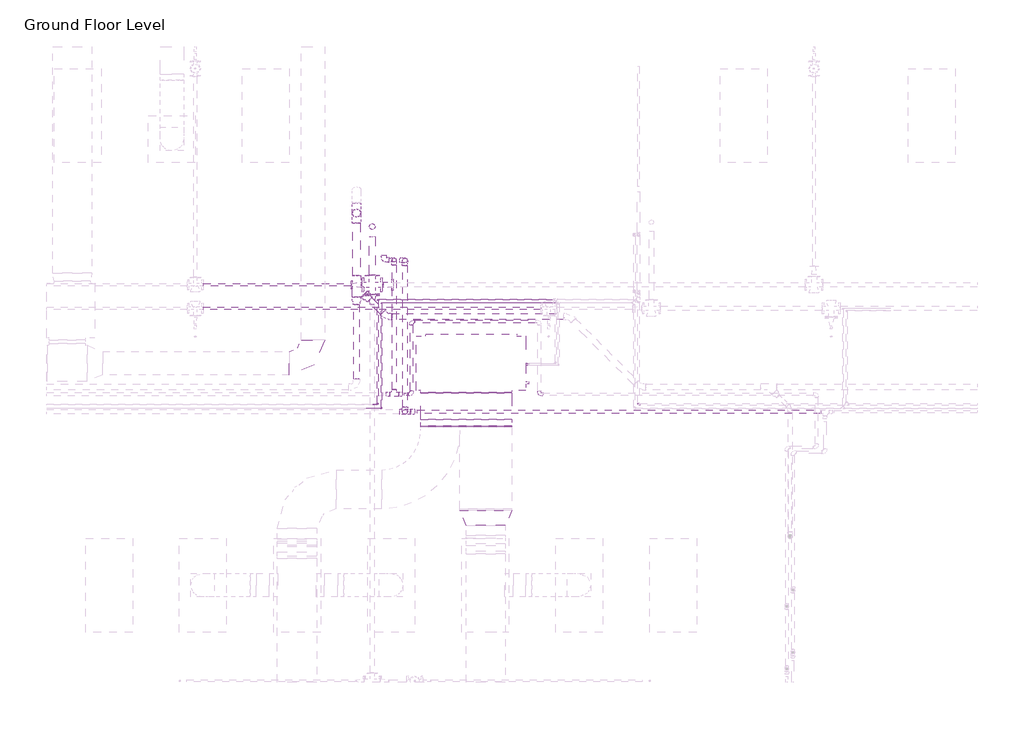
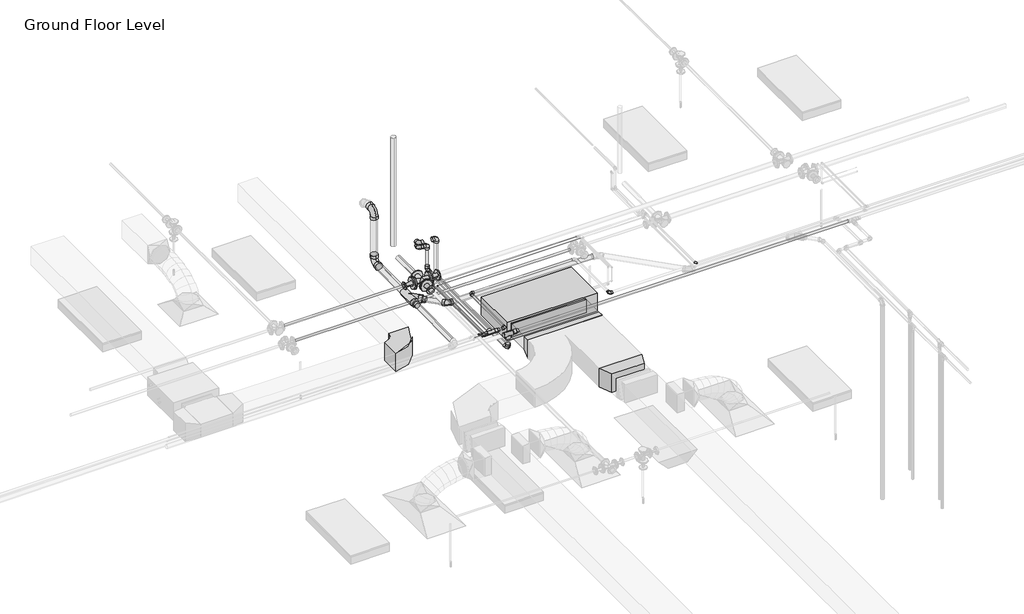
# One storey, part 52 of 72: 33 pipe fittings, 28 pipe segments, 4 duct fittings, 2 duct segments, 1 proxy.
"""IFC4 building model written with IfcOpenShell, lengths in millimetres."""

from ifc_helpers import new_model, si_unit, point, frame, frame_2d, origin, place, context, project, spatial, polyline, circle_curve, trimmed, segment, composite_curve, outline, extrude, transform, mapped, element, save
from components import fcu_daikin_iu_5a1bd61d, m_rectangular_elbow_radius_1_w_618da153, m_rectangular_transition_angle_45_degree_0ac038db, m_rectangular_transition_angle_45_degree_2e6f116c, m_rectangular_transition_angle_45_degree_bb273bf1, m_bend_pvc_sch_40_dwv_standard_bd716fa2, m_bend_pvc_sch_40_dwv_standard_fbb643c2, m_bend_pvc_sch_40_dwv_standard_bfb77a87, m_cross_flanged_cs_class_150_standard_72237f6b, m_elbow_generic_standard_a088f956, m_elbow_generic_standard_2a704253, m_elbow_generic_standard_73005802, m_elbow_generic_standard_65e6739a, m_reducer_flanged_cs_class_150_standard_50093ec8, m_reducer_flanged_cs_class_150_standard_fb6801e4, m_reducer_flanged_cs_class_150_standard_aac2962f, m_reducer_pvc_sch_40_dwv_standard_93e50943, m_tee_pvc_sch_40_standard_4c5b037c, standard_517a5a8d, standard_cd25fed3, standard_5079833c, standard_bbae78af, standard_a995ec02, standard_57727813, standard_77f9104c, standard_102e5625

model = new_model("IFC4")

# Units and contexts
model_context = context("Model", 3, world=origin())
ifc_project = project(units=[si_unit("LENGTHUNIT", "METRE", prefix="MILLI")], contexts=[model_context])

# Site, building, storey
site = spatial("IfcSite", under=ifc_project)
building = spatial("IfcBuilding", under=site)
storey = spatial("IfcBuildingStorey", under=building, Name="Ground Floor Level", Elevation=900.0)

# Proxy
placement = place(None, origin())
fcu_daikin_iu_shape = fcu_daikin_iu_5a1bd61d(model_context)
element("IfcBuildingElementProxy", 1, Name="FCU-DAIKIN IU : 12.9kW, 230V/50Hz/1Ph", ObjectType="FCU-DAIKIN IU : 12.9kW, 230V/50Hz/1Ph", at=placement, inside=storey, context=model_context, shape_type="MappedRepresentation", body=[
    mapped(fcu_daikin_iu_shape, transform((-4715.1910789, 14069.8153534, 3984.0925223), x_axis=(1.0, 0.0, 0.0), y_axis=(0.0, 1.0, 0.0), z_axis=(0.0, 0.0, 1.0))),
])

# Duct fittings
m_rectangular_elbow_radius_1_w_shape = m_rectangular_elbow_radius_1_w_618da153(model_context)
element("IfcDuctFitting", 2, ObjectType="M_Rectangular Elbow - Radius : 1 W", at=placement, inside=storey, context=model_context, shape_type="MappedRepresentation", body=[
    mapped(m_rectangular_elbow_radius_1_w_shape, transform((-6737.2327605, 14069.8153534, 4075.2872564), x_axis=(1.0, 0.0, 0.0), y_axis=(0.0, 1.0, 0.0), z_axis=(0.0, 0.0, 1.0))),
])
m_rectangular_transition_angle_45_degree_shape = m_rectangular_transition_angle_45_degree_0ac038db(model_context)
element("IfcDuctFitting", 3, ObjectType="M_Rectangular Transition - Angle : 45 Degree", at=placement, inside=storey, context=model_context, shape_type="MappedRepresentation", body=[
    mapped(m_rectangular_transition_angle_45_degree_shape, transform((-4528.6910789, 12192.414605, 4107.133239), x_axis=(0.0, -0.9999999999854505, 5.394345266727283e-06), y_axis=(1.0, 0.0, 0.0), z_axis=(0.0, 5.394345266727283e-06, 0.9999999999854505))),
])
m_rectangular_transition_angle_45_degree_2_shape = m_rectangular_transition_angle_45_degree_2e6f116c(model_context)
element("IfcDuctFitting", 4, ObjectType="M_Rectangular Transition - Angle : 45 Degree", at=placement, inside=storey, context=model_context, shape_type="MappedRepresentation", body=[
    mapped(m_rectangular_transition_angle_45_degree_2_shape, transform((-4778.6910789, 13694.4153534, 4150.0050223), x_axis=(0.0, -1.0, 0.0), y_axis=(1.0, 0.0, 0.0), z_axis=(0.0, 0.0, 1.0))),
])
m_rectangular_transition_angle_45_degree_3_shape = m_rectangular_transition_angle_45_degree_bb273bf1(model_context)
element("IfcDuctFitting", 5, ObjectType="M_Rectangular Transition - Angle : 45 Degree", at=placement, inside=storey, context=model_context, shape_type="MappedRepresentation", body=[
    mapped(m_rectangular_transition_angle_45_degree_3_shape, transform((-4778.6910789, 13354.5699657, 4150.0028095), x_axis=(0.0, -0.9999999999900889, -4.452214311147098e-06), y_axis=(1.0, 0.0, 0.0), z_axis=(0.0, -4.452214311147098e-06, 0.9999999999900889))),
])

# Duct segments
element("IfcDuctSegment", 6, ObjectType="Radius Elbows / Taps", at=placement, inside=storey, context=model_context, shape_type="SweptSolid", body=[
    extrude(outline(polyline([(-5359.6910789, 13694.083399), (-4197.6910789, 13694.083399), (-4197.6910789, 13354.5699657), (-5359.6910789, 13354.5699657), (-5359.6910789, 13694.083399)])), frame((0.0, 0.0, 4043.0050223), z_axis=(0.0, 0.0, 1.0), x_axis=(1.0, 0.0, 0.0)), (0.0, 0.0, 1.0), 214.0),
])
element("IfcDuctSegment", 7, ObjectType="Radius Elbows / Taps", at=placement, inside=storey, context=model_context, shape_type="SweptSolid", body=[
    extrude(outline(polyline([(0.0, -1162.0), (0.0, 0.0), (9.0109299, 0.0), (9.0109299, -1162.0), (0.0, -1162.0)])), frame((-5359.6910789, 13259.4862791, 3957.1425391), z_axis=(0.0, -0.00047283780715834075, 0.9999998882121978), x_axis=(0.0, 0.9999998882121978, 0.00047283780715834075)), (0.0, 0.0, 1.0), 300.0),
])

# Pipe fittings
m_bend_pvc_sch_40_dwv_standard_shape = m_bend_pvc_sch_40_dwv_standard_bd716fa2(model_context)
element("IfcPipeFitting", 8, ObjectType="M_Bend - PVC - Sch 40 - DWV : Standard", at=placement, inside=storey, context=model_context, shape_type="MappedRepresentation", body=[
    mapped(m_bend_pvc_sch_40_dwv_standard_shape, transform((-6179.1770144, 15988.8715849, 4179.1289206), x_axis=(0.0, 0.9999500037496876, 0.009999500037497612), y_axis=(0.0, -0.009999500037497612, 0.9999500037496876), z_axis=(1.0, 0.0, 0.0))),
])
m_bend_pvc_sch_40_dwv_standard_2_shape = m_bend_pvc_sch_40_dwv_standard_fbb643c2(model_context)
element("IfcPipeFitting", 9, ObjectType="M_Bend - PVC - Sch 40 - DWV : Standard", at=placement, inside=storey, context=model_context, shape_type="MappedRepresentation", body=[
    mapped(m_bend_pvc_sch_40_dwv_standard_2_shape, transform((-5796.171114, 14668.7334723, 4163.0722858), x_axis=(0.7069124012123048, -0.7071711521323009, -0.013557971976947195), y_axis=(0.7072304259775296, 0.7069828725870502, -0.0005851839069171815), z_axis=(0.009999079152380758, -0.00917493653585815, 0.999907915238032))),
])
m_bend_pvc_sch_40_dwv_standard_3_shape = m_bend_pvc_sch_40_dwv_standard_bfb77a87(model_context)
element("IfcPipeFitting", 10, ObjectType="M_Bend - PVC - Sch 40 - DWV : Standard", at=placement, inside=storey, context=model_context, shape_type="MappedRepresentation", body=[
    mapped(m_bend_pvc_sch_40_dwv_standard_3_shape, transform((-6179.1776394, 15988.874234, 5027.5258857), x_axis=(-4.882554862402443e-06, 2.069385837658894e-05, 0.9999999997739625), y_axis=(4.892659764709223e-08, 0.9999999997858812, -2.0693858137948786e-05), z_axis=(-0.9999999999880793, 4.8825558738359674e-08, -4.882555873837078e-06))),
])
m_cross_flanged_cs_class_150_standard_shape = m_cross_flanged_cs_class_150_standard_72237f6b(model_context)
element("IfcPipeFitting", 11, ObjectType="M_Cross - Flanged - CS - Class 150 : Standard", at=placement, inside=storey, context=model_context, shape_type="MappedRepresentation", body=[
    mapped(m_cross_flanged_cs_class_150_standard_shape, transform((-5978.130502, 15073.2009828, 4360.0), x_axis=(-1.0, 0.0, 0.0), y_axis=(0.0, -1.0, 0.0), z_axis=(0.0, 0.0, 1.0))),
])
m_elbow_generic_standard_shape = m_elbow_generic_standard_a088f956(model_context)
element("IfcPipeFitting", 12, ObjectType="M_Elbow - Generic : Standard", at=placement, inside=storey, context=model_context, shape_type="MappedRepresentation", body=[
    mapped(m_elbow_generic_standard_shape, transform((-5907.05663, 14885.6024145, 4380.0), x_axis=(-1.0, 0.0, 0.0), y_axis=(0.0, -1.0, 0.0), z_axis=(0.0, 0.0, 1.0))),
])
element("IfcPipeFitting", 13, ObjectType="M_Elbow - Generic : Standard", at=placement, inside=storey, context=model_context, shape_type="MappedRepresentation", body=[
    mapped(m_elbow_generic_standard_shape, transform((-5907.05663, 13545.2153534, 4380.0), x_axis=(1.0, 0.0, 0.0), y_axis=(0.0, 1.0, 0.0), z_axis=(0.0, 0.0, 1.0))),
])
m_elbow_generic_standard_2_shape = m_elbow_generic_standard_2a704253(model_context)
element("IfcPipeFitting", 14, ObjectType="M_Elbow - Generic : Standard", at=placement, inside=storey, context=model_context, shape_type="MappedRepresentation", body=[
    mapped(m_elbow_generic_standard_2_shape, transform((-5859.8931643, 14844.4055749, 4365.0), x_axis=(-1.0, 0.0, 0.0), y_axis=(0.0, -1.0, 0.0), z_axis=(0.0, 0.0, 1.0))),
])
element("IfcPipeFitting", 15, ObjectType="M_Elbow - Generic : Standard", at=placement, inside=storey, context=model_context, shape_type="MappedRepresentation", body=[
    mapped(m_elbow_generic_standard_2_shape, transform((-5859.8931643, 13494.0185138, 4393.0), x_axis=(1.0, 0.0, 0.0), y_axis=(0.0, 0.0, -1.0), z_axis=(0.0, 1.0, 0.0))),
])
element("IfcPipeFitting", 16, ObjectType="M_Elbow - Generic : Standard", at=placement, inside=storey, context=model_context, shape_type="MappedRepresentation", body=[
    mapped(m_elbow_generic_standard_2_shape, transform((-5859.8931643, 13494.0185138, 4365.0), x_axis=(0.0, -1.0, 0.0), y_axis=(0.0, 0.0, 1.0), z_axis=(-1.0, 0.0, 0.0))),
])
m_elbow_generic_standard_3_shape = m_elbow_generic_standard_73005802(model_context)
element("IfcPipeFitting", 17, ObjectType="M_Elbow - Generic : Standard", at=placement, inside=storey, context=model_context, shape_type="MappedRepresentation", body=[
    mapped(m_elbow_generic_standard_3_shape, transform((-2579.6952605, 13545.2153534, 4380.0), x_axis=(0.0, -1.0, 0.0), y_axis=(1.0, 0.0, 0.0), z_axis=(0.0, 0.0, 1.0))),
])
m_elbow_generic_standard_4_shape = m_elbow_generic_standard_65e6739a(model_context)
element("IfcPipeFitting", 18, ObjectType="M_Elbow - Generic : Standard", at=placement, inside=storey, context=model_context, shape_type="MappedRepresentation", body=[
    mapped(m_elbow_generic_standard_4_shape, transform((-5961.4046602, 13545.2153534, 4392.0), x_axis=(1.0, 0.0, 0.0), y_axis=(0.0, 0.0, -1.0), z_axis=(0.0, 1.0, 0.0))),
])
element("IfcPipeFitting", 19, ObjectType="M_Elbow - Generic : Standard", at=placement, inside=storey, context=model_context, shape_type="MappedRepresentation", body=[
    mapped(m_elbow_generic_standard_4_shape, transform((-5949.4046602, 13545.2153534, 4380.0), x_axis=(0.7071067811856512, 0.0, -0.7071067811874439), y_axis=(0.7071067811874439, 0.0, 0.7071067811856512), z_axis=(0.0, -1.0, 0.0))),
])
m_reducer_flanged_cs_class_150_standard_shape = m_reducer_flanged_cs_class_150_standard_50093ec8(model_context)
element("IfcPipeFitting", 20, ObjectType="M_Reducer - Flanged - CS - Class 150 : Standard", at=placement, inside=storey, context=model_context, shape_type="MappedRepresentation", body=[
    mapped(m_reducer_flanged_cs_class_150_standard_shape, transform((-5851.130502, 15073.2009828, 4360.0), x_axis=(1.0, 0.0, 0.0), y_axis=(0.0, 1.0, 0.0), z_axis=(0.0, 0.0, 1.0))),
])
m_reducer_flanged_cs_class_150_standard_2_shape = m_reducer_flanged_cs_class_150_standard_fb6801e4(model_context)
element("IfcPipeFitting", 21, ObjectType="M_Reducer - Flanged - CS - Class 150 : Standard", at=placement, inside=storey, context=model_context, shape_type="MappedRepresentation", body=[
    mapped(m_reducer_flanged_cs_class_150_standard_2_shape, transform((-6105.130502, 15073.2009828, 4360.0), x_axis=(-1.0, 0.0, 0.0), y_axis=(0.0, -1.0, 0.0), z_axis=(0.0, 0.0, 1.0))),
])
m_reducer_flanged_cs_class_150_standard_3_shape = m_reducer_flanged_cs_class_150_standard_aac2962f(model_context)
element("IfcPipeFitting", 22, ObjectType="M_Reducer - Flanged - CS - Class 150 : Standard", at=placement, inside=storey, context=model_context, shape_type="MappedRepresentation", body=[
    mapped(m_reducer_flanged_cs_class_150_standard_3_shape, transform((-5978.130502, 14946.2009828, 4360.0), x_axis=(0.0, -1.0, 0.0), y_axis=(1.0, 0.0, 0.0), z_axis=(0.0, 0.0, 1.0))),
])
m_reducer_pvc_sch_40_dwv_standard_shape = m_reducer_pvc_sch_40_dwv_standard_93e50943(model_context)
element("IfcPipeFitting", 23, ObjectType="M_Reducer - PVC - Sch 40 - DWV : Standard", at=placement, inside=storey, context=model_context, shape_type="MappedRepresentation", body=[
    mapped(m_reducer_pvc_sch_40_dwv_standard_shape, transform((-6179.1770144, 14819.9179815, 4167.4393846), x_axis=(0.0, 0.9999500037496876, 0.009999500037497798), y_axis=(-1.0000000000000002, 0.0, 0.0), z_axis=(0.0, -0.009999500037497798, 0.9999500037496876))),
])
element("IfcPipeFitting", 24, ObjectType="M_Reducer - PVC - Sch 40 - DWV : Standard", at=placement, inside=storey, context=model_context, shape_type="MappedRepresentation", body=[
    mapped(m_reducer_pvc_sch_40_dwv_standard_shape, transform((-6010.7168995, 14883.3577879, 4167.1870895), x_axis=(-0.7069124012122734, 0.7071711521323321, 0.01355797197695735), y_axis=(-0.7072361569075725, -0.7069773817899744, -2.1519182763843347e-08), z_axis=(0.00958516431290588, -0.009588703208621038, 0.9999080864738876))),
])
m_tee_pvc_sch_40_standard_shape = m_tee_pvc_sch_40_standard_4c5b037c(model_context)
element("IfcPipeFitting", 25, ObjectType="M_Tee - PVC - Sch 40 : Standard", at=placement, inside=storey, context=model_context, shape_type="MappedRepresentation", body=[
    mapped(m_tee_pvc_sch_40_standard_shape, transform((-6179.1770144, 15051.7796868, 4169.7580016), x_axis=(0.0, 0.9999500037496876, 0.009999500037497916), y_axis=(-0.9999972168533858, -2.3591797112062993e-05, 0.0023591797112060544), z_axis=(0.0023592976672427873, -0.009999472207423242, 0.9999472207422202))),
])
standard_shape = standard_517a5a8d(model_context)
element("IfcPipeFitting", 26, ObjectType="M_Elbow - CPVC - Sch 40 : Standard", at=placement, inside=storey, context=model_context, shape_type="MappedRepresentation", body=[
    mapped(standard_shape, transform((-5476.1871015, 13675.2153534, 4250.0), x_axis=(1.0, 0.0, 0.0), y_axis=(0.0, 1.0, 0.0), z_axis=(0.0, 0.0, 1.0))),
])
element("IfcPipeFitting", 27, ObjectType="M_Elbow - CPVC - Sch 40 : Standard", at=placement, inside=storey, context=model_context, shape_type="MappedRepresentation", body=[
    mapped(standard_shape, transform((-5476.1871015, 14603.43487, 4250.0), x_axis=(-1.0, 0.0, 0.0), y_axis=(0.0, -1.0, 0.0), z_axis=(0.0, 0.0, 1.0))),
])
element("IfcPipeFitting", 28, ObjectType="M_Elbow - CPVC - Sch 40 : Standard", at=placement, inside=storey, context=model_context, shape_type="MappedRepresentation", body=[
    mapped(standard_shape, transform((-3846.4489567, 13675.2153534, 4250.0), x_axis=(0.0, -1.0, 0.0), y_axis=(1.0, 0.0, 0.0), z_axis=(0.0, 0.0, 1.0))),
])
standard_2_shape = standard_cd25fed3(model_context)
element("IfcPipeFitting", 29, ObjectType="M_Tee - CPVC - Sch 40 : Standard", at=placement, inside=storey, context=model_context, shape_type="MappedRepresentation", body=[
    mapped(standard_2_shape, transform((-5560.8713756, 13449.9865561, 4315.0), x_axis=(1.0, 0.0, 0.0), y_axis=(0.0, 0.0, 1.0), z_axis=(0.0, -1.0, 0.0))),
])
standard_3_shape = standard_5079833c(model_context)
element("IfcPipeFitting", 30, ObjectType="M_Coupling Reducing - CPVC - Sch 40 : Standard", at=placement, inside=storey, context=model_context, shape_type="MappedRepresentation", body=[
    mapped(standard_3_shape, transform((-5486.9943636, 13449.9865561, 4315.0), x_axis=(1.0, 0.0, 0.0), y_axis=(0.0, 1.0, 0.0), z_axis=(0.0, 0.0, 1.0))),
])
standard_4_shape = standard_bbae78af(model_context)
element("IfcPipeFitting", 31, ObjectType="M_Tee - CPVC - Sch 40 : Standard", at=placement, inside=storey, context=model_context, shape_type="MappedRepresentation", body=[
    mapped(standard_4_shape, transform((-5698.3060147, 13675.2153534, 4250.0), x_axis=(1.0, 0.0, 0.0), y_axis=(0.0, -1.0, 0.0), z_axis=(0.0, 0.0, -1.0))),
])
standard_5_shape = standard_a995ec02(model_context)
element("IfcPipeFitting", 32, ObjectType="M_Coupling Reducing - CPVC - Sch 40 : Standard", at=placement, inside=storey, context=model_context, shape_type="MappedRepresentation", body=[
    mapped(standard_5_shape, transform((-5757.0562147, 13675.2153534, 4250.0), x_axis=(-1.0, 0.0, 0.0), y_axis=(0.0, -1.0, 0.0), z_axis=(0.0, 0.0, 1.0))),
])
standard_6_shape = standard_57727813(model_context)
element("IfcPipeFitting", 33, ObjectType="M_Elbow - CPVC - Sch 40 : Standard", at=placement, inside=storey, context=model_context, shape_type="MappedRepresentation", body=[
    mapped(standard_6_shape, transform((-5560.8713756, 15385.5016509, 4719.8375), x_axis=(0.0, 0.0, 1.0), y_axis=(-0.997564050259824, 0.06975647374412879, 0.0), z_axis=(-0.06975647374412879, -0.997564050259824, 0.0))),
])
element("IfcPipeFitting", 34, ObjectType="M_Elbow - CPVC - Sch 40 : Standard", at=placement, inside=storey, context=model_context, shape_type="MappedRepresentation", body=[
    mapped(standard_6_shape, transform((-5831.0029399, 15389.9865561, 4719.8375), x_axis=(0.0, -1.0, 0.0), y_axis=(1.0, 0.0, 0.0), z_axis=(0.0, 0.0, 1.0))),
])
element("IfcPipeFitting", 35, ObjectType="M_Elbow - CPVC - Sch 40 : Standard", at=placement, inside=storey, context=model_context, shape_type="MappedRepresentation", body=[
    mapped(standard_6_shape, transform((-5560.8713756, 15385.5016509, 4090.0), x_axis=(0.0, 0.0, -1.0), y_axis=(0.0, -1.0, 0.0), z_axis=(-1.0, 0.0, 0.0))),
])
element("IfcPipeFitting", 36, ObjectType="M_Elbow - CPVC - Sch 40 : Standard", at=placement, inside=storey, context=model_context, shape_type="MappedRepresentation", body=[
    mapped(standard_6_shape, transform((-5560.8713756, 13449.9865561, 4090.0), x_axis=(0.0, 0.0, -1.0), y_axis=(0.0, 1.0, 0.0), z_axis=(1.0, 0.0, 0.0))),
])
standard_7_shape = standard_77f9104c(model_context)
element("IfcPipeFitting", 37, ObjectType="M_Coupling Reducing - CPVC - Sch 40 : Standard", at=placement, inside=storey, context=model_context, shape_type="MappedRepresentation", body=[
    mapped(standard_7_shape, transform((-5639.5558147, 13675.2153534, 4250.0), x_axis=(1.0, 0.0, 0.0), y_axis=(0.0, 1.0, 0.0), z_axis=(0.0, 0.0, 1.0))),
])
standard_8_shape = standard_102e5625(model_context)
element("IfcPipeFitting", 38, ObjectType="M_Elbow - CPVC - Sch 40 : Standard", at=placement, inside=storey, context=model_context, shape_type="MappedRepresentation", body=[
    mapped(standard_8_shape, transform((-5698.3060147, 15389.9865561, 4250.0), x_axis=(0.0, 1.0, 0.0), y_axis=(0.0, 0.0, 1.0), z_axis=(1.0, 0.0, 0.0))),
])
element("IfcPipeFitting", 39, ObjectType="M_Elbow - CPVC - Sch 40 : Standard", at=placement, inside=storey, context=model_context, shape_type="MappedRepresentation", body=[
    mapped(standard_8_shape, transform((-5698.3060147, 15389.9865561, 4650.0), x_axis=(0.0, 0.0, 1.0), y_axis=(-1.0, 0.0, 0.0), z_axis=(0.0, -1.0, 0.0))),
])
element("IfcPipeFitting", 40, ObjectType="M_Elbow - CPVC - Sch 40 : Standard", at=placement, inside=storey, context=model_context, shape_type="MappedRepresentation", body=[
    mapped(standard_8_shape, transform((-5831.0029399, 15389.9865561, 4650.0), x_axis=(0.0, -1.0, 0.0), y_axis=(1.0, 0.0, 0.0), z_axis=(0.0, 0.0, 1.0))),
])

# Pipe segments
element("IfcPipeSegment", 41, ObjectType="CPVC", at=placement, inside=storey, context=model_context, shape_type="SweptSolid", body=[
    extrude(outline(composite_curve([segment(trimmed(circle_curve(frame_2d((13449.9865561, 4315.0)), 30.1625), [point((13419.8240561, 4315.0))], [point((13449.9865561, 4345.1625))], False, "CARTESIAN"), True, "CONTINUOUS"), segment(trimmed(circle_curve(frame_2d((13449.9865561, 4315.0)), 30.1625), [point((13449.9865561, 4345.1625))], [point((13480.1490561, 4315.0))], False, "CARTESIAN"), True, "CONTINUOUS"), segment(trimmed(circle_curve(frame_2d((13449.9865561, 4315.0)), 30.1625), [point((13480.1490561, 4315.0))], [point((13449.9865561, 4284.8375))], False, "CARTESIAN"), True, "CONTINUOUS"), segment(trimmed(circle_curve(frame_2d((13449.9865561, 4315.0)), 30.1625), [point((13449.9865561, 4284.8375))], [point((13419.8240561, 4315.0))], False, "CARTESIAN"), True, "CONTINUOUS")], self_intersect=False)), frame((-5494.1963756, 0.0, 0.0), z_axis=(1.0, 0.0, 0.0), x_axis=(0.0, 1.0, 0.0)), (0.0, 0.0, 1.0), 7.202012),
])
element("IfcPipeSegment", 42, ObjectType="CPVC", at=placement, inside=storey, context=model_context, shape_type="SweptSolid", body=[
    extrude(outline(composite_curve([segment(trimmed(circle_curve(frame_2d((4090.0, -5560.8713756)), 30.1625), [point((4090.0, -5591.0338756))], [point((4059.8375, -5560.8713756))], False, "CARTESIAN"), True, "CONTINUOUS"), segment(trimmed(circle_curve(frame_2d((4090.0, -5560.8713756)), 30.1625), [point((4059.8375, -5560.8713756))], [point((4090.0, -5530.7088756))], False, "CARTESIAN"), True, "CONTINUOUS"), segment(trimmed(circle_curve(frame_2d((4090.0, -5560.8713756)), 30.1625), [point((4090.0, -5530.7088756))], [point((4120.1625, -5560.8713756))], False, "CARTESIAN"), True, "CONTINUOUS"), segment(trimmed(circle_curve(frame_2d((4090.0, -5560.8713756)), 30.1625), [point((4120.1625, -5560.8713756))], [point((4090.0, -5591.0338756))], False, "CARTESIAN"), True, "CONTINUOUS")], self_intersect=False)), frame((0.0, 13514.2803061, 0.0), z_axis=(0.0, 1.0, 0.0), x_axis=(0.0, 0.0, 1.0)), (0.0, 0.0, 1.0), 1806.9275947),
])
element("IfcPipeSegment", 43, ObjectType="CPVC", at=placement, inside=storey, context=model_context, shape_type="SweptSolid", body=[
    extrude(outline(composite_curve([segment(trimmed(circle_curve(frame_2d((4250.0, -5698.3060147)), 24.13), [point((4250.0, -5674.1760147))], [point((4274.13, -5698.3060147))], False, "CARTESIAN"), True, "CONTINUOUS"), segment(trimmed(circle_curve(frame_2d((4250.0, -5698.3060147)), 24.13), [point((4274.13, -5698.3060147))], [point((4250.0, -5722.4360147))], False, "CARTESIAN"), True, "CONTINUOUS"), segment(trimmed(circle_curve(frame_2d((4250.0, -5698.3060147)), 24.13), [point((4250.0, -5722.4360147))], [point((4225.87, -5698.3060147))], False, "CARTESIAN"), True, "CONTINUOUS"), segment(trimmed(circle_curve(frame_2d((4250.0, -5698.3060147)), 24.13), [point((4225.87, -5698.3060147))], [point((4250.0, -5674.1760147))], False, "CARTESIAN"), True, "CONTINUOUS")], self_intersect=False)), frame((0.0, 13733.9655534, 0.0), z_axis=(0.0, 1.0, 0.0), x_axis=(0.0, 0.0, 1.0)), (0.0, 0.0, 1.0), 1593.3020527),
])
element("IfcPipeSegment", 44, ObjectType="CPVC", at=placement, inside=storey, context=model_context, shape_type="SweptSolid", body=[
    extrude(outline(composite_curve([segment(trimmed(circle_curve(frame_2d((13449.9865561, 4315.0)), 21.082), [point((13471.0685561, 4315.0))], [point((13449.9865561, 4293.918))], False, "CARTESIAN"), True, "CONTINUOUS"), segment(trimmed(circle_curve(frame_2d((13449.9865561, 4315.0)), 21.082), [point((13449.9865561, 4293.918))], [point((13428.9045561, 4315.0))], False, "CARTESIAN"), True, "CONTINUOUS"), segment(trimmed(circle_curve(frame_2d((13449.9865561, 4315.0)), 21.082), [point((13428.9045561, 4315.0))], [point((13449.9865561, 4336.082))], False, "CARTESIAN"), True, "CONTINUOUS"), segment(trimmed(circle_curve(frame_2d((13449.9865561, 4315.0)), 21.082), [point((13449.9865561, 4336.082))], [point((13471.0685561, 4315.0))], False, "CARTESIAN"), True, "CONTINUOUS")], self_intersect=False)), frame((-5401.6556136, 0.0, 0.0), z_axis=(1.0, 0.0, 0.0), x_axis=(0.0, 1.0, 0.0)), (0.0, 0.0, 1.0), 5150.4478531),
])
element("IfcPipeSegment", 45, ObjectType="CPVC", at=placement, inside=storey, context=model_context, shape_type="SweptSolid", body=[
    extrude(outline(composite_curve([segment(trimmed(circle_curve(frame_2d((-5698.3060147, 15389.9865561)), 24.13), [point((-5722.4360147, 15389.9865561))], [point((-5698.3060147, 15414.1165561))], False, "CARTESIAN"), True, "CONTINUOUS"), segment(trimmed(circle_curve(frame_2d((-5698.3060147, 15389.9865561)), 24.13), [point((-5698.3060147, 15414.1165561))], [point((-5674.1760147, 15389.9865561))], False, "CARTESIAN"), True, "CONTINUOUS"), segment(trimmed(circle_curve(frame_2d((-5698.3060147, 15389.9865561)), 24.13), [point((-5674.1760147, 15389.9865561))], [point((-5698.3060147, 15365.8565561))], False, "CARTESIAN"), True, "CONTINUOUS"), segment(trimmed(circle_curve(frame_2d((-5698.3060147, 15389.9865561)), 24.13), [point((-5698.3060147, 15365.8565561))], [point((-5722.4360147, 15389.9865561))], False, "CARTESIAN"), True, "CONTINUOUS")], self_intersect=False)), frame((0.0, 0.0, 4312.71895), z_axis=(0.0, 0.0, 1.0), x_axis=(1.0, 0.0, 0.0)), (0.0, 0.0, 1.0), 274.5621),
])
element("IfcPipeSegment", 46, ObjectType="CPVC", at=placement, inside=storey, context=model_context, shape_type="SweptSolid", body=[
    extrude(outline(composite_curve([segment(trimmed(circle_curve(frame_2d((-5560.8713756, 15385.5016509)), 30.1625), [point((-5591.0338756, 15385.5016509))], [point((-5560.8713756, 15415.6641509))], False, "CARTESIAN"), True, "CONTINUOUS"), segment(trimmed(circle_curve(frame_2d((-5560.8713756, 15385.5016509)), 30.1625), [point((-5560.8713756, 15415.6641509))], [point((-5530.7088756, 15385.5016509))], False, "CARTESIAN"), True, "CONTINUOUS"), segment(trimmed(circle_curve(frame_2d((-5560.8713756, 15385.5016509)), 30.1625), [point((-5530.7088756, 15385.5016509))], [point((-5560.8713756, 15355.3391509))], False, "CARTESIAN"), True, "CONTINUOUS"), segment(trimmed(circle_curve(frame_2d((-5560.8713756, 15385.5016509)), 30.1625), [point((-5560.8713756, 15355.3391509))], [point((-5591.0338756, 15385.5016509))], False, "CARTESIAN"), True, "CONTINUOUS")], self_intersect=False)), frame((0.0, 0.0, 4154.29375), z_axis=(0.0, 0.0, 1.0), x_axis=(1.0, 0.0, 0.0)), (0.0, 0.0, 1.0), 501.25),
])
element("IfcPipeSegment", 47, ObjectType="CPVC", at=placement, inside=storey, context=model_context, shape_type="SweptSolid", body=[
    extrude(outline(composite_curve([segment(trimmed(circle_curve(frame_2d((13675.2153534, 4250.0)), 16.7005), [point((13658.5148534, 4250.0))], [point((13675.2153534, 4266.7005))], False, "CARTESIAN"), True, "CONTINUOUS"), segment(trimmed(circle_curve(frame_2d((13675.2153534, 4250.0)), 16.7005), [point((13675.2153534, 4266.7005))], [point((13691.9158534, 4250.0))], False, "CARTESIAN"), True, "CONTINUOUS"), segment(trimmed(circle_curve(frame_2d((13675.2153534, 4250.0)), 16.7005), [point((13691.9158534, 4250.0))], [point((13675.2153534, 4233.2995))], False, "CARTESIAN"), True, "CONTINUOUS"), segment(trimmed(circle_curve(frame_2d((13675.2153534, 4250.0)), 16.7005), [point((13675.2153534, 4233.2995))], [point((13658.5148534, 4250.0))], False, "CARTESIAN"), True, "CONTINUOUS")], self_intersect=False)), frame((-5567.3569397, 0.0, 0.0), z_axis=(1.0, 0.0, 0.0), x_axis=(0.0, 1.0, 0.0)), (0.0, 0.0, 1.0), 47.9072882),
])
element("IfcPipeSegment", 48, ObjectType="CPVC", at=placement, inside=storey, context=model_context, shape_type="SweptSolid", body=[
    extrude(outline(composite_curve([segment(trimmed(circle_curve(frame_2d((4250.0, -5476.1871015)), 16.7005), [point((4250.0, -5459.4866015))], [point((4266.7005, -5476.1871015))], False, "CARTESIAN"), True, "CONTINUOUS"), segment(trimmed(circle_curve(frame_2d((4250.0, -5476.1871015)), 16.7005), [point((4266.7005, -5476.1871015))], [point((4250.0, -5492.8876015))], False, "CARTESIAN"), True, "CONTINUOUS"), segment(trimmed(circle_curve(frame_2d((4250.0, -5476.1871015)), 16.7005), [point((4250.0, -5492.8876015))], [point((4233.2995, -5476.1871015))], False, "CARTESIAN"), True, "CONTINUOUS"), segment(trimmed(circle_curve(frame_2d((4250.0, -5476.1871015)), 16.7005), [point((4233.2995, -5476.1871015))], [point((4250.0, -5459.4866015))], False, "CARTESIAN"), True, "CONTINUOUS")], self_intersect=False)), frame((0.0, 13718.4779034, 0.0), z_axis=(0.0, 1.0, 0.0), x_axis=(0.0, 0.0, 1.0)), (0.0, 0.0, 1.0), 841.6944166),
])
element("IfcPipeSegment", 49, ObjectType="CPVC", at=placement, inside=storey, context=model_context, shape_type="SweptSolid", body=[
    extrude(outline(composite_curve([segment(trimmed(circle_curve(frame_2d((14603.43487, 4250.0)), 16.7005), [point((14620.13537, 4250.0))], [point((14603.43487, 4233.2995))], False, "CARTESIAN"), True, "CONTINUOUS"), segment(trimmed(circle_curve(frame_2d((14603.43487, 4250.0)), 16.7005), [point((14603.43487, 4233.2995))], [point((14586.73437, 4250.0))], False, "CARTESIAN"), True, "CONTINUOUS"), segment(trimmed(circle_curve(frame_2d((14603.43487, 4250.0)), 16.7005), [point((14586.73437, 4250.0))], [point((14603.43487, 4266.7005))], False, "CARTESIAN"), True, "CONTINUOUS"), segment(trimmed(circle_curve(frame_2d((14603.43487, 4250.0)), 16.7005), [point((14603.43487, 4266.7005))], [point((14620.13537, 4250.0))], False, "CARTESIAN"), True, "CONTINUOUS")], self_intersect=False)), frame((-5432.9245515, 0.0, 0.0), z_axis=(1.0, 0.0, 0.0), x_axis=(0.0, 1.0, 0.0)), (0.0, 0.0, 1.0), 1543.2130448),
])
element("IfcPipeSegment", 50, ObjectType="CPVC", at=placement, inside=storey, context=model_context, shape_type="SweptSolid", body=[
    extrude(outline(composite_curve([segment(trimmed(circle_curve(frame_2d((-5560.8713756, 13449.9865561)), 30.1625), [point((-5530.7088756, 13449.9865561))], [point((-5560.8713756, 13419.8240561))], False, "CARTESIAN"), True, "CONTINUOUS"), segment(trimmed(circle_curve(frame_2d((-5560.8713756, 13449.9865561)), 30.1625), [point((-5560.8713756, 13419.8240561))], [point((-5591.0338756, 13449.9865561))], False, "CARTESIAN"), True, "CONTINUOUS"), segment(trimmed(circle_curve(frame_2d((-5560.8713756, 13449.9865561)), 30.1625), [point((-5591.0338756, 13449.9865561))], [point((-5560.8713756, 13480.1490561))], False, "CARTESIAN"), True, "CONTINUOUS"), segment(trimmed(circle_curve(frame_2d((-5560.8713756, 13449.9865561)), 30.1625), [point((-5560.8713756, 13480.1490561))], [point((-5530.7088756, 13449.9865561))], False, "CARTESIAN"), True, "CONTINUOUS")], self_intersect=False)), frame((0.0, 0.0, 4154.29375), z_axis=(0.0, 0.0, 1.0), x_axis=(1.0, 0.0, 0.0)), (0.0, 0.0, 1.0), 94.03125),
])
element("IfcPipeSegment", 51, ObjectType="Copper", at=placement, inside=storey, context=model_context, shape_type="SweptSolid", body=[
    extrude(outline(composite_curve([segment(trimmed(circle_curve(frame_2d((13494.0185138, 4393.0)), 3.35), [point((13490.6685138, 4393.0))], [point((13494.0185138, 4396.35))], False, "CARTESIAN"), True, "CONTINUOUS"), segment(trimmed(circle_curve(frame_2d((13494.0185138, 4393.0)), 3.35), [point((13494.0185138, 4396.35))], [point((13497.3685138, 4393.0))], False, "CARTESIAN"), True, "CONTINUOUS"), segment(trimmed(circle_curve(frame_2d((13494.0185138, 4393.0)), 3.35), [point((13497.3685138, 4393.0))], [point((13494.0185138, 4389.65))], False, "CARTESIAN"), True, "CONTINUOUS"), segment(trimmed(circle_curve(frame_2d((13494.0185138, 4393.0)), 3.35), [point((13494.0185138, 4389.65))], [point((13490.6685138, 4393.0))], False, "CARTESIAN"), True, "CONTINUOUS")], self_intersect=False)), frame((-6053.203103, 0.0, 0.0), z_axis=(1.0, 0.0, 0.0), x_axis=(0.0, 1.0, 0.0)), (0.0, 0.0, 1.0), 182.1724387),
])
element("IfcPipeSegment", 52, ObjectType="Copper", at=placement, inside=storey, context=model_context, shape_type="SweptSolid", body=[
    extrude(outline(composite_curve([segment(trimmed(circle_curve(frame_2d((4380.0, -5907.05663)), 6.5), [point((4380.0, -5900.55663))], [point((4386.5, -5907.05663))], False, "CARTESIAN"), True, "CONTINUOUS"), segment(trimmed(circle_curve(frame_2d((4380.0, -5907.05663)), 6.5), [point((4386.5, -5907.05663))], [point((4380.0, -5913.55663))], False, "CARTESIAN"), True, "CONTINUOUS"), segment(trimmed(circle_curve(frame_2d((4380.0, -5907.05663)), 6.5), [point((4380.0, -5913.55663))], [point((4373.5, -5907.05663))], False, "CARTESIAN"), True, "CONTINUOUS"), segment(trimmed(circle_curve(frame_2d((4380.0, -5907.05663)), 6.5), [point((4373.5, -5907.05663))], [point((4380.0, -5900.55663))], False, "CARTESIAN"), True, "CONTINUOUS")], self_intersect=False)), frame((0.0, 13559.5028534, 0.0), z_axis=(0.0, 1.0, 0.0), x_axis=(0.0, 0.0, 1.0)), (0.0, 0.0, 1.0), 1311.8120611),
])
element("IfcPipeSegment", 53, ObjectType="Copper", at=placement, inside=storey, context=model_context, shape_type="SweptSolid", body=[
    extrude(outline(composite_curve([segment(trimmed(circle_curve(frame_2d((4365.0, -5859.8931643)), 3.35), [point((4365.0, -5856.5431643))], [point((4368.35, -5859.8931643))], False, "CARTESIAN"), True, "CONTINUOUS"), segment(trimmed(circle_curve(frame_2d((4365.0, -5859.8931643)), 3.35), [point((4368.35, -5859.8931643))], [point((4365.0, -5863.2431643))], False, "CARTESIAN"), True, "CONTINUOUS"), segment(trimmed(circle_curve(frame_2d((4365.0, -5859.8931643)), 3.35), [point((4365.0, -5863.2431643))], [point((4361.65, -5859.8931643))], False, "CARTESIAN"), True, "CONTINUOUS"), segment(trimmed(circle_curve(frame_2d((4365.0, -5859.8931643)), 3.35), [point((4361.65, -5859.8931643))], [point((4365.0, -5856.5431643))], False, "CARTESIAN"), True, "CONTINUOUS")], self_intersect=False)), frame((0.0, 13505.1560138, 0.0), z_axis=(0.0, 1.0, 0.0), x_axis=(0.0, 0.0, 1.0)), (0.0, 0.0, 1.0), 1328.1120611),
])
element("IfcPipeSegment", 54, ObjectType="Copper", at=placement, inside=storey, context=model_context, shape_type="SweptSolid", body=[
    extrude(outline(composite_curve([segment(trimmed(circle_curve(frame_2d((14885.6024145, 4380.0)), 6.5), [point((14879.1024145, 4380.0))], [point((14885.6024145, 4386.5))], False, "CARTESIAN"), True, "CONTINUOUS"), segment(trimmed(circle_curve(frame_2d((14885.6024145, 4380.0)), 6.5), [point((14885.6024145, 4386.5))], [point((14892.1024145, 4380.0))], False, "CARTESIAN"), True, "CONTINUOUS"), segment(trimmed(circle_curve(frame_2d((14885.6024145, 4380.0)), 6.5), [point((14892.1024145, 4380.0))], [point((14885.6024145, 4373.5))], False, "CARTESIAN"), True, "CONTINUOUS"), segment(trimmed(circle_curve(frame_2d((14885.6024145, 4380.0)), 6.5), [point((14885.6024145, 4373.5))], [point((14879.1024145, 4380.0))], False, "CARTESIAN"), True, "CONTINUOUS")], self_intersect=False)), frame((-5892.76913, 0.0, 0.0), z_axis=(1.0, 0.0, 0.0), x_axis=(0.0, 1.0, 0.0)), (0.0, 0.0, 1.0), 2228.690551),
])
element("IfcPipeSegment", 55, ObjectType="Copper", at=placement, inside=storey, context=model_context, shape_type="SweptSolid", body=[
    extrude(outline(composite_curve([segment(trimmed(circle_curve(frame_2d((14844.4055749, 4365.0)), 3.35), [point((14847.7555749, 4365.0))], [point((14844.4055749, 4361.65))], False, "CARTESIAN"), True, "CONTINUOUS"), segment(trimmed(circle_curve(frame_2d((14844.4055749, 4365.0)), 3.35), [point((14844.4055749, 4361.65))], [point((14841.0555749, 4365.0))], False, "CARTESIAN"), True, "CONTINUOUS"), segment(trimmed(circle_curve(frame_2d((14844.4055749, 4365.0)), 3.35), [point((14841.0555749, 4365.0))], [point((14844.4055749, 4368.35))], False, "CARTESIAN"), True, "CONTINUOUS"), segment(trimmed(circle_curve(frame_2d((14844.4055749, 4365.0)), 3.35), [point((14844.4055749, 4368.35))], [point((14847.7555749, 4365.0))], False, "CARTESIAN"), True, "CONTINUOUS")], self_intersect=False)), frame((-5848.7556643, 0.0, 0.0), z_axis=(1.0, 0.0, 0.0), x_axis=(0.0, 1.0, 0.0)), (0.0, 0.0, 1.0), 2229.4583352),
])
element("IfcPipeSegment", 56, ObjectType="Copper", at=placement, inside=storey, context=model_context, shape_type="SweptSolid", body=[
    extrude(outline(composite_curve([segment(trimmed(circle_curve(frame_2d((-5859.8931643, 13494.0185138)), 3.35), [point((-5856.5431643, 13494.0185138))], [point((-5859.8931643, 13490.6685138))], False, "CARTESIAN"), True, "CONTINUOUS"), segment(trimmed(circle_curve(frame_2d((-5859.8931643, 13494.0185138)), 3.35), [point((-5859.8931643, 13490.6685138))], [point((-5863.2431643, 13494.0185138))], False, "CARTESIAN"), True, "CONTINUOUS"), segment(trimmed(circle_curve(frame_2d((-5859.8931643, 13494.0185138)), 3.35), [point((-5863.2431643, 13494.0185138))], [point((-5859.8931643, 13497.3685138))], False, "CARTESIAN"), True, "CONTINUOUS"), segment(trimmed(circle_curve(frame_2d((-5859.8931643, 13494.0185138)), 3.35), [point((-5859.8931643, 13497.3685138))], [point((-5856.5431643, 13494.0185138))], False, "CARTESIAN"), True, "CONTINUOUS")], self_intersect=False)), frame((0.0, 0.0, 4376.1375), z_axis=(0.0, 0.0, 1.0), x_axis=(1.0, 0.0, 0.0)), (0.0, 0.0, 1.0), 5.725),
])
element("IfcPipeSegment", 57, ObjectType="Copper", at=placement, inside=storey, context=model_context, shape_type="SweptSolid", body=[
    extrude(outline(composite_curve([segment(trimmed(circle_curve(frame_2d((0.0, -6.5)), 6.5), [point((0.0, -13.0))], [point((-6.5, -6.5))], False, "CARTESIAN"), True, "CONTINUOUS"), segment(trimmed(circle_curve(frame_2d((0.0, -6.5)), 6.5), [point((-6.5, -6.5))], [point((0.0, 0.0))], False, "CARTESIAN"), True, "CONTINUOUS"), segment(trimmed(circle_curve(frame_2d((0.0, -6.5)), 6.5), [point((0.0, 0.0))], [point((6.5, -6.5))], False, "CARTESIAN"), True, "CONTINUOUS"), segment(trimmed(circle_curve(frame_2d((0.0, -6.5)), 6.5), [point((6.5, -6.5))], [point((0.0, -13.0))], False, "CARTESIAN"), True, "CONTINUOUS")], self_intersect=False)), frame((-5953.5893721, 13551.7153534, 4384.1847119), z_axis=(-0.7071067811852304, 0.0, 0.7071067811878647), x_axis=(0.7071067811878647, 0.0, 0.7071067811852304)), (0.0, 0.0, 1.0), 5.1344102),
])
element("IfcPipeSegment", 58, ObjectType="Copper", at=placement, inside=storey, context=model_context, shape_type="SweptSolid", body=[
    extrude(outline(composite_curve([segment(trimmed(circle_curve(frame_2d((13545.2153534, 4380.0)), 6.5), [point((13551.7153534, 4380.0))], [point((13545.2153534, 4373.5))], False, "CARTESIAN"), True, "CONTINUOUS"), segment(trimmed(circle_curve(frame_2d((13545.2153534, 4380.0)), 6.5), [point((13545.2153534, 4373.5))], [point((13538.7153534, 4380.0))], False, "CARTESIAN"), True, "CONTINUOUS"), segment(trimmed(circle_curve(frame_2d((13545.2153534, 4380.0)), 6.5), [point((13538.7153534, 4380.0))], [point((13545.2153534, 4386.5))], False, "CARTESIAN"), True, "CONTINUOUS"), segment(trimmed(circle_curve(frame_2d((13545.2153534, 4380.0)), 6.5), [point((13545.2153534, 4386.5))], [point((13551.7153534, 4380.0))], False, "CARTESIAN"), True, "CONTINUOUS")], self_intersect=False)), frame((-5943.4865839, 0.0, 0.0), z_axis=(1.0, 0.0, 0.0), x_axis=(0.0, 1.0, 0.0)), (0.0, 0.0, 1.0), 22.1424539),
])
element("IfcPipeSegment", 59, ObjectType="PVC - DWV", at=placement, inside=storey, context=model_context, shape_type="SweptSolid", body=[
    extrude(outline(composite_curve([segment(trimmed(circle_curve(frame_2d((0.0, 50.7999999)), 50.8), [point((50.8, 50.7999999))], [point((0.0, 0.0))], False, "CARTESIAN"), True, "CONTINUOUS"), segment(trimmed(circle_curve(frame_2d((0.0, 50.7999999)), 50.8), [point((0.0, 0.0))], [point((-50.8, 50.7999999))], False, "CARTESIAN"), True, "CONTINUOUS"), segment(trimmed(circle_curve(frame_2d((0.0, 50.7999999)), 50.8), [point((-50.8, 50.7999999))], [point((0.0, 101.5999999))], False, "CARTESIAN"), True, "CONTINUOUS"), segment(trimmed(circle_curve(frame_2d((0.0, 50.7999999)), 50.8), [point((0.0, 101.5999999))], [point((50.8, 50.7999999))], False, "CARTESIAN"), True, "CONTINUOUS")], self_intersect=False)), frame((-6179.1770144, 15188.6920457, 4221.9296651), z_axis=(0.0, 0.9999500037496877, 0.009999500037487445), x_axis=(1.0, 0.0, 0.0)), (0.0, 0.0, 1.0), 671.6974847),
])
element("IfcPipeSegment", 60, ObjectType="PVC - DWV", at=placement, inside=storey, context=model_context, shape_type="SweptSolid", body=[
    extrude(outline(composite_curve([segment(trimmed(circle_curve(frame_2d((-6179.1770144, 15988.8715849)), 50.8), [point((-6229.9770144, 15988.8715849))], [point((-6179.1770144, 16039.6715849))], False, "CARTESIAN"), True, "CONTINUOUS"), segment(trimmed(circle_curve(frame_2d((-6179.1770144, 15988.8715849)), 50.8), [point((-6179.1770144, 16039.6715849))], [point((-6128.3770144, 15988.8715849))], False, "CARTESIAN"), True, "CONTINUOUS"), segment(trimmed(circle_curve(frame_2d((-6179.1770144, 15988.8715849)), 50.8), [point((-6128.3770144, 15988.8715849))], [point((-6179.1770144, 15938.0715849))], False, "CARTESIAN"), True, "CONTINUOUS"), segment(trimmed(circle_curve(frame_2d((-6179.1770144, 15988.8715849)), 50.8), [point((-6179.1770144, 15938.0715849))], [point((-6229.9770144, 15988.8715849))], False, "CARTESIAN"), True, "CONTINUOUS")], self_intersect=False)), frame((0.0, 0.0, 4307.1429831), z_axis=(0.0, 0.0, 1.0), x_axis=(1.0, 0.0, 0.0)), (0.0, 0.0, 1.0), 592.3688402),
])
element("IfcPipeSegment", 61, ObjectType="PVC - DWV", at=placement, inside=storey, context=model_context, shape_type="SweptSolid", body=[
    extrude(outline(composite_curve([segment(trimmed(circle_curve(frame_2d((0.0, 36.5125)), 36.5125), [point((0.0, 73.025))], [point((36.5125001, 36.5125))], False, "CARTESIAN"), True, "CONTINUOUS"), segment(trimmed(circle_curve(frame_2d((0.0, 36.5125)), 36.5125), [point((36.5125001, 36.5125))], [point((0.0, 0.0))], False, "CARTESIAN"), True, "CONTINUOUS"), segment(trimmed(circle_curve(frame_2d((0.0, 36.5125)), 36.5125), [point((0.0, 0.0))], [point((-36.5125, 36.5125))], False, "CARTESIAN"), True, "CONTINUOUS"), segment(trimmed(circle_curve(frame_2d((0.0, 36.5125)), 36.5125), [point((-36.5125, 36.5125))], [point((0.0, 73.025))], False, "CARTESIAN"), True, "CONTINUOUS")], self_intersect=False)), frame((-3534.8278242, 14632.2209723, 4140.4588529), z_axis=(-0.9999500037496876, 0.0, 0.009999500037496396), x_axis=(0.009999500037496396, 0.0, 0.9999500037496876)), (0.0, 0.0, 1.0), 2191.3922916),
])
element("IfcPipeSegment", 62, ObjectType="PVC - DWV", at=placement, inside=storey, context=model_context, shape_type="SweptSolid", body=[
    extrude(outline(composite_curve([segment(trimmed(circle_curve(frame_2d((0.0, 36.5125)), 36.5125), [point((36.509147, 37.0073089))], [point((0.4948088, 0.0033529))], False, "CARTESIAN"), True, "CONTINUOUS"), segment(trimmed(circle_curve(frame_2d((0.0, 36.5125)), 36.5125), [point((0.4948088, 0.0033529))], [point((-36.5091471, 36.0176911))], False, "CARTESIAN"), True, "CONTINUOUS"), segment(trimmed(circle_curve(frame_2d((0.0, 36.5125)), 36.5125), [point((-36.5091471, 36.0176911))], [point((-0.494809, 73.0216471))], False, "CARTESIAN"), True, "CONTINUOUS"), segment(trimmed(circle_curve(frame_2d((0.0, 36.5125)), 36.5125), [point((-0.494809, 73.0216471))], [point((36.509147, 37.0073089))], False, "CARTESIAN"), True, "CONTINUOUS")], self_intersect=False)), frame((-5845.7002686, 14717.5808626, 4200.5280038), z_axis=(-0.7069124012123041, 0.7071711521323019, 0.013557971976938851), x_axis=(0.7073011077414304, 0.7067825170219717, 0.013550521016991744)), (0.0, 0.0, 1.0), 233.4329268),
])
element("IfcPipeSegment", 63, ObjectType="PVC - DWV", at=placement, inside=storey, context=model_context, shape_type="SweptSolid", body=[
    extrude(outline(composite_curve([segment(trimmed(circle_curve(frame_2d((0.0, 36.5125)), 36.5125), [point((36.5125, 36.5125))], [point((0.0, 0.0))], False, "CARTESIAN"), True, "CONTINUOUS"), segment(trimmed(circle_curve(frame_2d((0.0, 36.5125)), 36.5125), [point((0.0, 0.0))], [point((-36.5125, 36.5125))], False, "CARTESIAN"), True, "CONTINUOUS"), segment(trimmed(circle_curve(frame_2d((0.0, 36.5125)), 36.5125), [point((-36.5125, 36.5125))], [point((0.0, 73.025))], False, "CARTESIAN"), True, "CONTINUOUS"), segment(trimmed(circle_curve(frame_2d((0.0, 36.5125)), 36.5125), [point((0.0, 73.025))], [point((36.5125, 36.5125))], False, "CARTESIAN"), True, "CONTINUOUS")], self_intersect=False)), frame((-6179.1770144, 13867.4488986, 4194.4290193), z_axis=(0.0, 0.9999500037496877, 0.009999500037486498), x_axis=(1.0, 0.0, 0.0)), (0.0, 0.0, 1.0), 952.1515801),
])
element("IfcPipeSegment", 64, ObjectType="PVC - DWV", at=placement, inside=storey, context=model_context, shape_type="SweptSolid", body=[
    extrude(outline(composite_curve([segment(trimmed(circle_curve(frame_2d((0.0, -50.8)), 50.8), [point((-50.7949304, -51.5176696))], [point((-0.7176696, -0.0050696))], False, "CARTESIAN"), True, "CONTINUOUS"), segment(trimmed(circle_curve(frame_2d((0.0, -50.8)), 50.8), [point((-0.7176696, -0.0050696))], [point((50.7949303, -50.0823303))], False, "CARTESIAN"), True, "CONTINUOUS"), segment(trimmed(circle_curve(frame_2d((0.0, -50.8)), 50.8), [point((50.7949303, -50.0823303))], [point((0.7176697, -101.5949303))], False, "CARTESIAN"), True, "CONTINUOUS"), segment(trimmed(circle_curve(frame_2d((0.0, -50.8)), 50.8), [point((0.7176697, -101.5949303))], [point((-50.7949304, -51.5176696))], False, "CARTESIAN"), True, "CONTINUOUS")], self_intersect=False)), frame((-6077.4820144, 14951.1616267, 4117.6777138), z_axis=(-0.7074910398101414, 0.7065814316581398, 0.014110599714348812), x_axis=(0.7067223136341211, 0.7073500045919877, 0.014125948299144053)), (0.0, 0.0, 1.0), 6.3528264),
])
element("IfcPipeSegment", 65, ObjectType="Steel flanged", at=placement, inside=storey, context=model_context, shape_type="SweptSolid", body=[
    extrude(outline(composite_curve([segment(trimmed(circle_curve(frame_2d((14773.4681847, 4291.0943441)), 16.7005), [point((14756.7676847, 4291.0943441))], [point((14773.4681847, 4307.7948441))], False, "CARTESIAN"), True, "CONTINUOUS"), segment(trimmed(circle_curve(frame_2d((14773.4681847, 4291.0943441)), 16.7005), [point((14773.4681847, 4307.7948441))], [point((14790.1686847, 4291.0943441))], False, "CARTESIAN"), True, "CONTINUOUS"), segment(trimmed(circle_curve(frame_2d((14773.4681847, 4291.0943441)), 16.7005), [point((14790.1686847, 4291.0943441))], [point((14773.4681847, 4274.3938441))], False, "CARTESIAN"), True, "CONTINUOUS"), segment(trimmed(circle_curve(frame_2d((14773.4681847, 4291.0943441)), 16.7005), [point((14773.4681847, 4274.3938441))], [point((14756.7676847, 4291.0943441))], False, "CARTESIAN"), True, "CONTINUOUS")], self_intersect=False)), frame((-8136.5241668, 0.0, 0.0), z_axis=(1.0, 0.0, 0.0), x_axis=(0.0, 1.0, 0.0)), (0.0, 0.0, 1.0), 4311.8303326),
])
element("IfcPipeSegment", 66, ObjectType="Steel flanged", at=placement, inside=storey, context=model_context, shape_type="SweptSolid", body=[
    extrude(outline(composite_curve([segment(trimmed(circle_curve(frame_2d((4360.0, -5978.130502)), 36.5125), [point((4360.0, -5941.618002))], [point((4396.5125, -5978.130502))], False, "CARTESIAN"), True, "CONTINUOUS"), segment(trimmed(circle_curve(frame_2d((4360.0, -5978.130502)), 36.5125), [point((4396.5125, -5978.130502))], [point((4360.0, -6014.643002))], False, "CARTESIAN"), True, "CONTINUOUS"), segment(trimmed(circle_curve(frame_2d((4360.0, -5978.130502)), 36.5125), [point((4360.0, -6014.643002))], [point((4323.4875, -5978.130502))], False, "CARTESIAN"), True, "CONTINUOUS"), segment(trimmed(circle_curve(frame_2d((4360.0, -5978.130502)), 36.5125), [point((4323.4875, -5978.130502))], [point((4360.0, -5941.618002))], False, "CARTESIAN"), True, "CONTINUOUS")], self_intersect=False)), frame((0.0, 15200.2009828, 0.0), z_axis=(0.0, 1.0, 0.0), x_axis=(0.0, 0.0, 1.0)), (0.0, 0.0, 1.0), 489.2995),
])
element("IfcPipeSegment", 67, ObjectType="Steel flanged", at=placement, inside=storey, context=model_context, shape_type="SweptSolid", body=[
    extrude(outline(composite_curve([segment(trimmed(circle_curve(frame_2d((-5978.130502, 15816.5004828)), 36.5125), [point((-6014.643002, 15816.5004828))], [point((-5978.130502, 15853.0129828))], False, "CARTESIAN"), True, "CONTINUOUS"), segment(trimmed(circle_curve(frame_2d((-5978.130502, 15816.5004828)), 36.5125), [point((-5978.130502, 15853.0129828))], [point((-5941.618002, 15816.5004828))], False, "CARTESIAN"), True, "CONTINUOUS"), segment(trimmed(circle_curve(frame_2d((-5978.130502, 15816.5004828)), 36.5125), [point((-5941.618002, 15816.5004828))], [point((-5978.130502, 15779.9879828))], False, "CARTESIAN"), True, "CONTINUOUS"), segment(trimmed(circle_curve(frame_2d((-5978.130502, 15816.5004828)), 36.5125), [point((-5978.130502, 15779.9879828))], [point((-6014.643002, 15816.5004828))], False, "CARTESIAN"), True, "CONTINUOUS")], self_intersect=False)), frame((0.0, 0.0, 4487.0), z_axis=(0.0, 0.0, 1.0), x_axis=(1.0, 0.0, 0.0)), (0.0, 0.0, 1.0), 1786.0),
])
element("IfcPipeSegment", 68, ObjectType="Steel flanged", at=placement, inside=storey, context=model_context, shape_type="SweptSolid", body=[
    extrude(outline(composite_curve([segment(trimmed(circle_curve(frame_2d((15073.2009828, 4360.0)), 16.7005), [point((15056.5004828, 4360.0))], [point((15073.2009828, 4376.7005))], False, "CARTESIAN"), True, "CONTINUOUS"), segment(trimmed(circle_curve(frame_2d((15073.2009828, 4360.0)), 16.7005), [point((15073.2009828, 4376.7005))], [point((15089.9014828, 4360.0))], False, "CARTESIAN"), True, "CONTINUOUS"), segment(trimmed(circle_curve(frame_2d((15073.2009828, 4360.0)), 16.7005), [point((15089.9014828, 4360.0))], [point((15073.2009828, 4343.2995))], False, "CARTESIAN"), True, "CONTINUOUS"), segment(trimmed(circle_curve(frame_2d((15073.2009828, 4360.0)), 16.7005), [point((15073.2009828, 4343.2995))], [point((15056.5004828, 4360.0))], False, "CARTESIAN"), True, "CONTINUOUS")], self_intersect=False)), frame((-8136.5241668, 0.0, 0.0), z_axis=(1.0, 0.0, 0.0), x_axis=(0.0, 1.0, 0.0)), (0.0, 0.0, 1.0), 1891.3936648),
])

save(model, "model.ifc")
